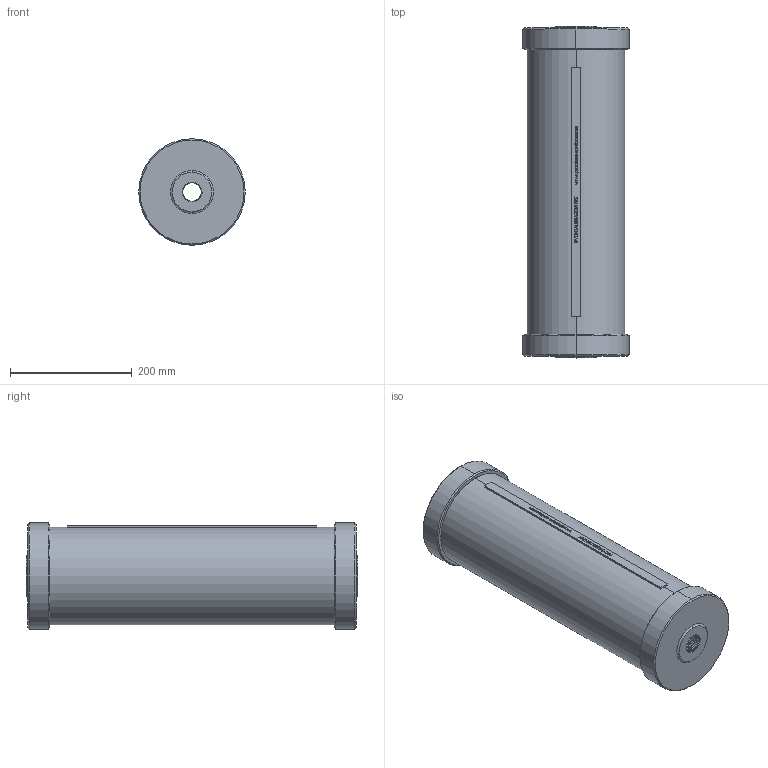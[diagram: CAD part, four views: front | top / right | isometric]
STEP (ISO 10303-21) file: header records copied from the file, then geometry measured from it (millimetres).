
FILE_DESCRIPTION (( 'STEP AP214' ), '1' );
FILE_NAME ('7.5LTR-C-11-00.STEP', '2025-06-23T10:47:33', ( '' ), ( '' ), 'SwSTEP 2.0', 'SolidWorks 2024', '' );
FILE_SCHEMA (( 'AUTOMOTIVE_DESIGN' ));
Length unit declared in the file: millimetre
Products named in the file (1): 7.5LTR-C-11-00
Bounding box: 175 x 546 x 175 mm (x, y, z)
Volume: 1803642 mm3; surface area: 670758.6 mm2
Topology: 4 solids, 4 shells, 595 faces, 1562 edges, 1036 vertices
Faces by surface type: plane 306, bspline 229, cylinder 40, cone 16, torus 4
Entity records: 38653 total; most frequent: CARTESIAN_POINT 19059, ORIENTED_EDGE 3124, DIRECTION 1838, EDGE_CURVE 1562, VERTEX_POINT 1036, VECTOR 984, LINE 984, EDGE_LOOP 662
